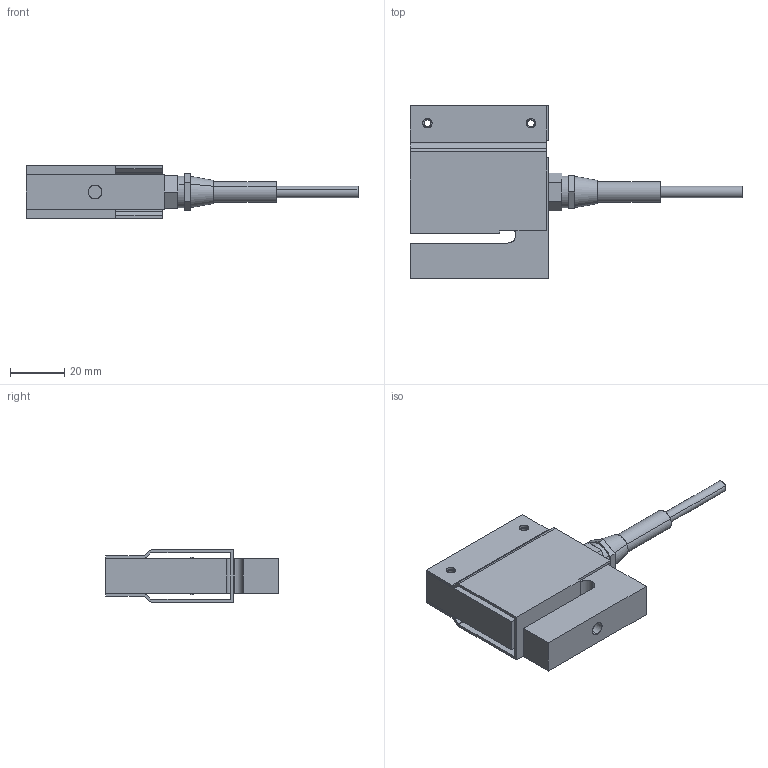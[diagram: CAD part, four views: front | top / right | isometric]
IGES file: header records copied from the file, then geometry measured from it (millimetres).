
Start section: SolidWorks IGES file using analytic representation for surfaces
Global section: file name: O:\16-Entwicklung\Projekte\Kraftsensoren\0225_KM1402\01_Mechanik & Gehäuse\01_Solid Works\01_Outline 3D files\Volumenmodell\3D_KM1402_50N_200N.IGS; native system: SolidWorks 2012; preprocessor: SolidWorks 2012; author: andreb; date: 130227.155500; units: millimetre
Bounding box: 121.9 x 63.5 x 19.2 mm (x, y, z)
Surface area: 23326.7 mm2 (no closed solid volume)
Topology: 0 solids, 0 shells, 86 faces, 1298 edges, 1298 vertices
Faces by surface type: bspline 52, revolution 34
